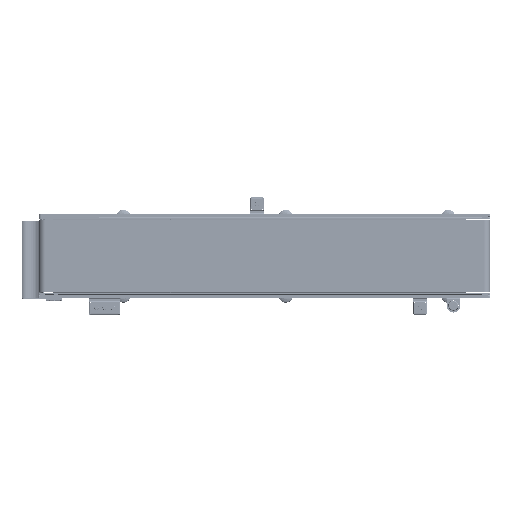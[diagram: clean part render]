
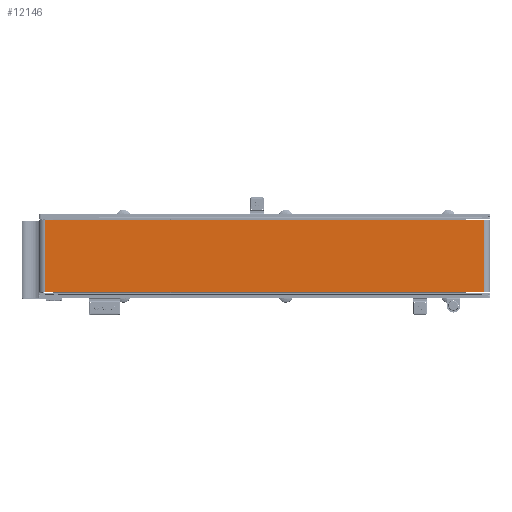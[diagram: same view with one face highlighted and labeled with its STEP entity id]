
A CAD part, top view. The second image highlights one B-rep face of the part: STEP entity #12146.
In plain terms, the highlighted planar face has unit normal (0, 0, 1) as drawn and (0, 1, 0) by its records, which use the part's own axes.
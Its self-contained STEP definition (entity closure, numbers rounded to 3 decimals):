
#8785=PLANE('',#71433);
#12146=ADVANCED_FACE('',(#16431),#8785,.F.);
#16431=FACE_OUTER_BOUND('',#20242,.T.);
#20242=EDGE_LOOP('',(#48036,#48037,#48038,#48039));
#25025=LINE('',#120004,#30209);
#25026=LINE('',#120007,#30210);
#25027=LINE('',#120009,#30211);
#25028=LINE('',#120011,#30212);
#30209=VECTOR('',#87685,1.);
#30210=VECTOR('',#87686,1.);
#30211=VECTOR('',#87687,1.);
#30212=VECTOR('',#87688,1.);
#48036=ORIENTED_EDGE('',*,*,#63166,.F.);
#48037=ORIENTED_EDGE('',*,*,#63167,.F.);
#48038=ORIENTED_EDGE('',*,*,#63168,.F.);
#48039=ORIENTED_EDGE('',*,*,#63169,.F.);
#54190=VERTEX_POINT('',#120005);
#54191=VERTEX_POINT('',#120006);
#54192=VERTEX_POINT('',#120008);
#54193=VERTEX_POINT('',#120010);
#63166=EDGE_CURVE('',#54190,#54191,#25025,.T.);
#63167=EDGE_CURVE('',#54192,#54190,#25026,.T.);
#63168=EDGE_CURVE('',#54193,#54192,#25027,.T.);
#63169=EDGE_CURVE('',#54191,#54193,#25028,.T.);
#71433=AXIS2_PLACEMENT_3D('',#120012,#87689,#87690);
#87685=DIRECTION('',(0.,0.,-1.));
#87686=DIRECTION('',(-1.,0.,0.));
#87687=DIRECTION('',(0.,0.,1.));
#87688=DIRECTION('',(1.,0.,0.));
#87689=DIRECTION('',(0.,-1.,0.));
#87690=DIRECTION('',(0.,0.,1.));
#120004=CARTESIAN_POINT('',(0.,32.,400.));
#120005=CARTESIAN_POINT('',(0.,32.,400.));
#120006=CARTESIAN_POINT('',(0.,32.,0.));
#120007=CARTESIAN_POINT('',(0.,32.,400.));
#120008=CARTESIAN_POINT('',(2435.,32.,400.));
#120009=CARTESIAN_POINT('',(2435.,32.,400.));
#120010=CARTESIAN_POINT('',(2435.,32.,0.));
#120011=CARTESIAN_POINT('',(0.,32.,0.));
#120012=CARTESIAN_POINT('',(0.,32.,400.));
